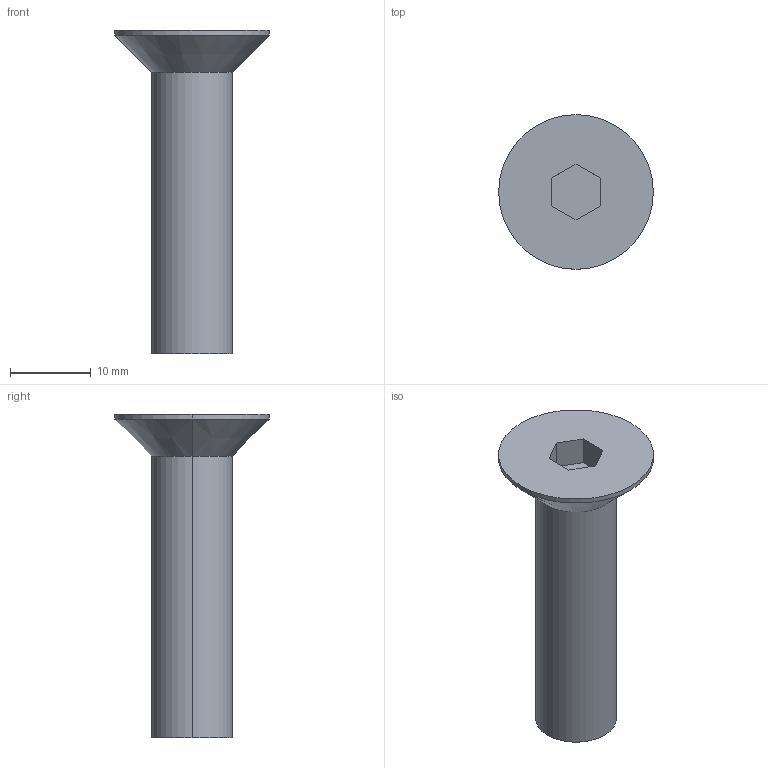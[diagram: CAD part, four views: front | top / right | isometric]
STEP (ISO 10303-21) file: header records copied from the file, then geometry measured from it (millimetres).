
FILE_DESCRIPTION (( 'STEP AP214' ), '1' );
FILE_NAME ('COUNTERSHUNK_HEAD_BOLT_M10(L=035).STEP', '2021-09-18T10:21:50', ( '' ), ( '' ), 'SwSTEP 2.0', 'SolidWorks 2018', '' );
FILE_SCHEMA (( 'AUTOMOTIVE_DESIGN' ));
Length unit declared in the file: millimetre
Products named in the file (1): COUNTERSHUNK_HEAD_BOLT_M10(L=035)
Bounding box: 19.22 x 19.22 x 40.22 mm (x, y, z)
Volume: 3612.1 mm3; surface area: 1879.1 mm2
Topology: 1 solids, 1 shells, 15 faces, 32 edges, 20 vertices
Faces by surface type: plane 9, cylinder 4, cone 2
Entity records: 436 total; most frequent: DIRECTION 72, CARTESIAN_POINT 68, ORIENTED_EDGE 64, EDGE_CURVE 32, AXIS2_PLACEMENT_3D 24, VECTOR 24, LINE 24, VERTEX_POINT 20
